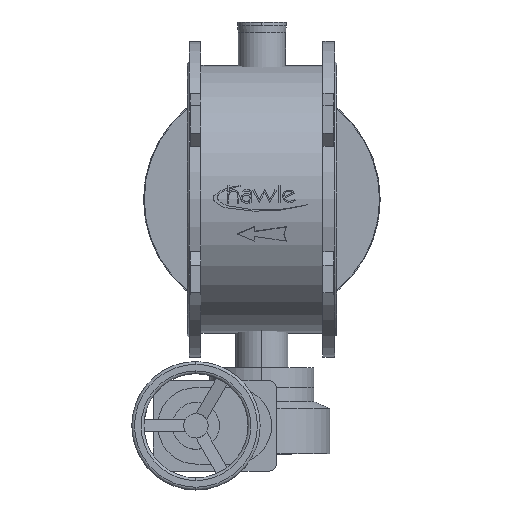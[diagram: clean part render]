
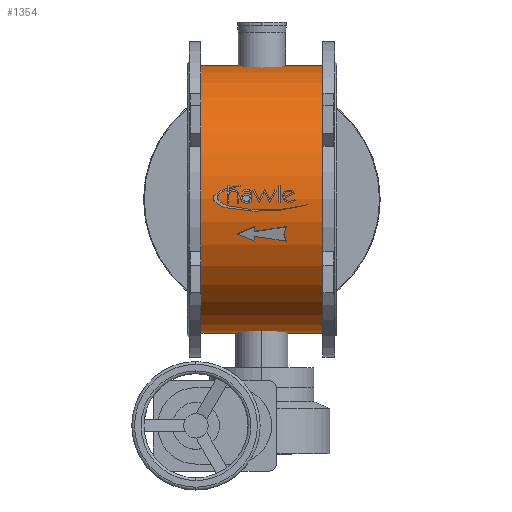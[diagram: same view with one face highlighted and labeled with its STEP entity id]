
A CAD part, top view. The second image highlights one B-rep face of the part: STEP entity #1354.
In plain terms, the highlighted cylindrical face has radius 386 mm (diameter 772 mm), a partial arc.
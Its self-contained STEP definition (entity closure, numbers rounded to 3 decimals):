
#1354=ADVANCED_FACE('',(#2774),#2775,.T.);
#2774=FACE_OUTER_BOUND('',#4694,.T.);
#2775=CYLINDRICAL_SURFACE('',#4695,386.0);
#4694=EDGE_LOOP('',(#7128,#7129,#7130,#7131));
#4695=AXIS2_PLACEMENT_3D('',#7132,#7133,#7134);
#7128=ORIENTED_EDGE('',*,*,#10688,.T.);
#7129=ORIENTED_EDGE('',*,*,#10689,.T.);
#7130=ORIENTED_EDGE('',*,*,#10690,.T.);
#7131=ORIENTED_EDGE('',*,*,#10544,.T.);
#7132=CARTESIAN_POINT('',(-390.5,0.,0.0));
#7133=DIRECTION('',(1.0,0.,0.0));
#7134=DIRECTION('',(0.,-1.0,0.0));
#10544=EDGE_CURVE('',#12576,#12575,#12578,.T.);
#10688=EDGE_CURVE('',#12575,#12804,#12805,.T.);
#10689=EDGE_CURVE('',#12804,#12806,#12807,.T.);
#10690=EDGE_CURVE('',#12806,#12576,#12808,.T.);
#12575=VERTEX_POINT('',#15203);
#12576=VERTEX_POINT('',#15204);
#12578=CIRCLE('',#15206,386.0);
#12804=VERTEX_POINT('',#15480);
#12805=LINE('',#15481,#15482);
#12806=VERTEX_POINT('',#15483);
#12807=CIRCLE('',#15484,386.0);
#12808=LINE('',#15485,#15486);
#15203=CARTESIAN_POINT('',(-390.5,-386.0,0.0));
#15204=CARTESIAN_POINT('',(-390.5,386.0,0.));
#15206=AXIS2_PLACEMENT_3D('',#17739,#17740,#17741);
#15480=CARTESIAN_POINT('',(-39.5,-386.0,0.0));
#15481=CARTESIAN_POINT('',(-390.5,-386.0,0.));
#15482=VECTOR('',#17988,1.0);
#15483=CARTESIAN_POINT('',(-39.5,386.0,0.));
#15484=AXIS2_PLACEMENT_3D('',#17989,#17990,#17991);
#15485=CARTESIAN_POINT('',(-390.5,386.0,0.));
#15486=VECTOR('',#17992,1.0);
#17739=CARTESIAN_POINT('',(-390.5,0.,0.0));
#17740=DIRECTION('',(1.0,0.,0.0));
#17741=DIRECTION('',(0.,-1.0,0.0));
#17988=DIRECTION('',(1.0,0.,0.0));
#17989=CARTESIAN_POINT('',(-39.5,0.,0.0));
#17990=DIRECTION('',(-1.0,0.,0.0));
#17991=DIRECTION('',(0.,-1.0,0.0));
#17992=DIRECTION('',(-1.0,0.,-0.0));
